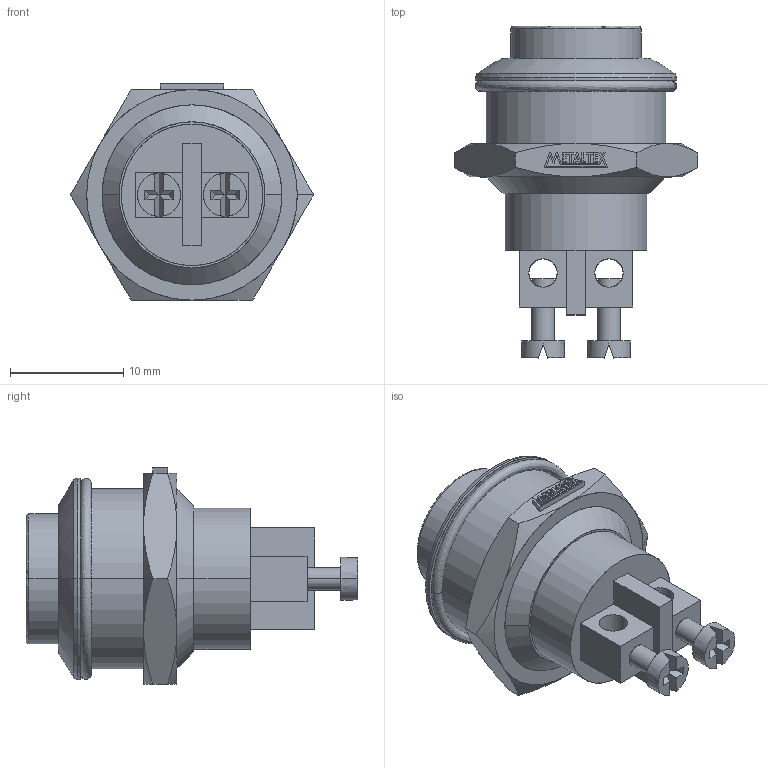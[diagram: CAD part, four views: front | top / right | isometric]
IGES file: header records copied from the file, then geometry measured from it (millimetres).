
Start section: SolidWorks IGES file using analytic representation for surfaces
Global section: file name: D:\X - Arquivos\PROEX\Empresas\P11 - METALTEX\01 - Produtos\IGES\Segunda remessa\AV16HA.IGS; native system: SolidWorks 2012; preprocessor: SolidWorks 2012; author: Usuario; date: 180117.123111; units: millimetre
Bounding box: 21.5 x 29.33 x 19.12 mm (x, y, z)
Surface area: 2140.8 mm2 (no closed solid volume)
Topology: 0 solids, 0 shells, 201 faces, 2074 edges, 2074 vertices
Faces by surface type: bspline 155, revolution 46
